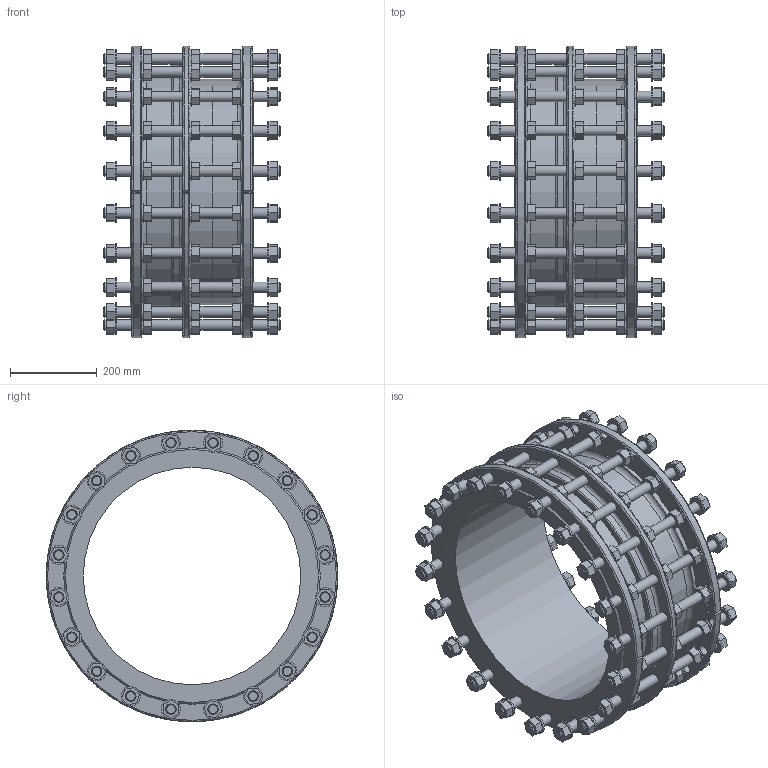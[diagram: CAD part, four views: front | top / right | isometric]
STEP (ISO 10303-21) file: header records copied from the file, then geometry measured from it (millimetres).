
FILE_DESCRIPTION (( 'STEP AP203' ), '1' );
FILE_NAME ('O_265_911_DN500_0XXXXX01_L=285_REV01.step', '2024-12-12T08:10:37', ( '' ), ( '' ), 'SwSTEP 2.0', 'SolidWorks 2022', '' );
FILE_SCHEMA (( 'CONFIG_CONTROL_DESIGN' ));
Length unit declared in the file: millimetre
Products named in the file (1): O_265_911_DN500_0XXXXX01_L=285_REV01
Bounding box: 405 x 669.97 x 670 mm (x, y, z)
Volume: 21812112.1 mm3; surface area: 2405073.9 mm2
Topology: 1 solids, 1 shells, 1250 faces, 3047 edges, 2009 vertices
Faces by surface type: plane 959, cylinder 232, cone 43, torus 16
Full cylindrical faces by diameter (mm): 24 x120, 44 x100, 500 x1, 518 x2, 554 x1
Entity records: 35112 total; most frequent: CARTESIAN_POINT 6980, DIRECTION 5713, ORIENTED_EDGE 5264, EDGE_CURVE 2632, LINE 1925, VECTOR 1925, AXIS2_PLACEMENT_3D 1894, VERTEX_POINT 1865
